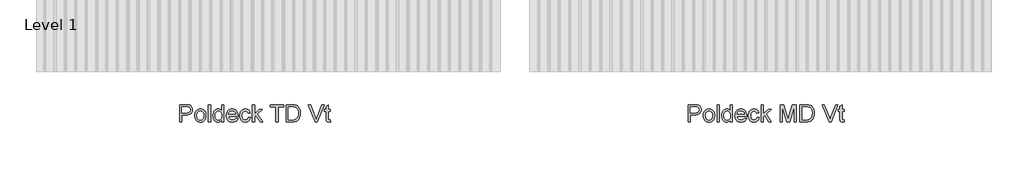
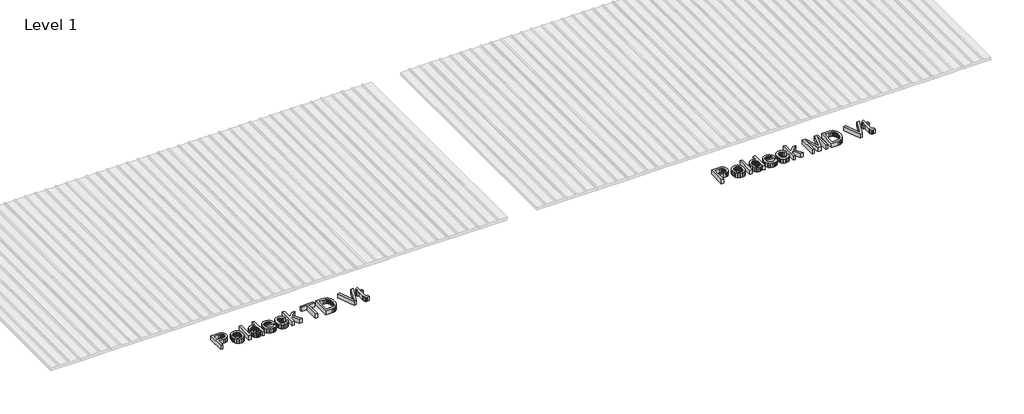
# One storey, part 23 of 27: 2 proxies.
"""IFC4 building model written with IfcOpenShell, lengths in millimetres."""

import ifcopenshell
import ifcopenshell.guid

model = None  # the IFC model being written
_history = None  # IfcOwnerHistory: only IFC2X3 demands one
_inside = {}  # id of a spatial element -> (the spatial element, [elements in it])
_under = {}  # id of a project, library or spatial element -> (it, [spatial elements below it])
_declared = {}  # id of a project -> (the project, [libraries it declares])
_typed = {}  # id of a type object -> (the type object, [elements of that type])
_made_of = {}  # id of a material, layer set ... -> (it, [elements and type objects made of it])


def new_model(schema):
    """Start an empty IFC model of exactly this schema.

    Asked for "IFC4X3", IfcOpenShell would pick the latest addendum, in which some entities
    have other attributes; the version numbers below select the first issue.
    IFC2X3 requires an IfcOwnerHistory on every rooted entity: one is made here for all.
    """
    global model, _history
    if schema == "IFC4X3":
        model = ifcopenshell.file(schema_version=(4, 3, 0, 0))
    else:
        model = ifcopenshell.file(schema=schema)
    _inside.clear()
    _under.clear()
    _declared.clear()
    _typed.clear()
    _made_of.clear()
    _history = None
    if model.schema == "IFC2X3":
        org = make("IfcOrganization", Name="unknown")
        user = make(
            "IfcPersonAndOrganization",
            ThePerson=make("IfcPerson", FamilyName="unknown"),
            TheOrganization=org,
        )
        app = make(
            "IfcApplication",
            ApplicationDeveloper=org,
            Version="unknown",
            ApplicationFullName="unknown",
            ApplicationIdentifier="unknown",
        )
        _history = make(
            "IfcOwnerHistory",
            OwningUser=user,
            OwningApplication=app,
            ChangeAction="ADDED",
            CreationDate=0,
        )
    return model


def make(cls, **values):
    """One entity of the class cls with the attributes given. An attribute that is None is left unset."""
    return model.create_entity(
        cls, **{name: value for name, value in values.items() if value is not None}
    )


def rooted(cls, **values):
    """An entity with a GlobalId (a new one), such as an element, a storey or a relation."""
    return make(cls, GlobalId=ifcopenshell.guid.new(), OwnerHistory=_history, **values)


def si_unit(unit_type, name, prefix=None):
    """IfcSIUnit, for example si_unit("LENGTHUNIT", "METRE", prefix="MILLI")."""
    return make("IfcSIUnit", UnitType=unit_type, Prefix=prefix, Name=name)


def assignment(units):
    """IfcUnitAssignment: the units of a project."""
    return None if units is None else make("IfcUnitAssignment", Units=units)


def point(xyz):
    """IfcCartesianPoint."""
    return None if xyz is None else make("IfcCartesianPoint", Coordinates=xyz)


def direction(xyz):
    """IfcDirection."""
    return None if xyz is None else make("IfcDirection", DirectionRatios=xyz)


def frame(location, z_axis=None, x_axis=None):
    """IfcAxis2Placement3D, a coordinate frame: its origin and axes. An axis left out is left unset."""
    return make(
        "IfcAxis2Placement3D",
        Location=point(location),
        Axis=direction(z_axis),
        RefDirection=direction(x_axis),
    )


def origin():
    """The frame at (0, 0, 0) with its axes left unset."""
    return frame((0.0, 0.0, 0.0))


def origin_with_axes():
    """The frame at (0, 0, 0) with the z axis (0, 0, 1) and the x axis (1, 0, 0) written out."""
    return frame((0.0, 0.0, 0.0), z_axis=(0.0, 0.0, 1.0), x_axis=(1.0, 0.0, 0.0))


def place(relative_to, where):
    """IfcLocalPlacement: puts the frame where relative to a parent placement (None: the world)."""
    return make(
        "IfcLocalPlacement", PlacementRelTo=relative_to, RelativePlacement=where
    )


def context(
    kind, dimensions, precision=None, world=None, true_north=None, identifier=None
):
    """IfcGeometricRepresentationContext, for example the 3D "Model" context."""
    return make(
        "IfcGeometricRepresentationContext",
        ContextIdentifier=identifier,
        ContextType=kind,
        CoordinateSpaceDimension=dimensions,
        Precision=precision,
        WorldCoordinateSystem=world,
        TrueNorth=true_north,
    )


def project(units=None, contexts=None):
    """IfcProject with its units and contexts."""
    return rooted(
        "IfcProject",
        Name="project",
        RepresentationContexts=contexts,
        UnitsInContext=assignment(units),
    )


def spatial(cls, under=None, at=None, **own):
    """A site, building, storey or space (cls), placed at a placement, below another one or the project."""
    s = rooted(cls, ObjectPlacement=at, **own)
    if under is not None:
        _under.setdefault(under.id(), (under, []))[1].append(s)
    return s


def polyline(points):
    """IfcPolyline through the points."""
    return make("IfcPolyline", Points=[point(p) for p in points])


def outline(outer, holes=None, kind="AREA"):
    """IfcArbitraryClosedProfileDef: a profile drawn as a closed curve; with holes, ...WithVoids."""
    if holes is None:
        return make("IfcArbitraryClosedProfileDef", ProfileType=kind, OuterCurve=outer)
    return make(
        "IfcArbitraryProfileDefWithVoids",
        ProfileType=kind,
        OuterCurve=outer,
        InnerCurves=holes,
    )


def extrude(swept, where, along, depth):
    """IfcExtrudedAreaSolid: the profile swept, set in the frame where, extruded along a direction by depth."""
    return make(
        "IfcExtrudedAreaSolid",
        SweptArea=swept,
        Position=where,
        ExtrudedDirection=direction(along),
        Depth=depth,
    )


def shape(context_of_items, identifier, shape_type, items):
    """IfcShapeRepresentation: the items that make up one representation, for example the "Body"."""
    return make(
        "IfcShapeRepresentation",
        ContextOfItems=context_of_items,
        RepresentationIdentifier=identifier,
        RepresentationType=shape_type,
        Items=items,
    )


def made_of(thing, what):
    """Note that an element or type object is made of a material, layer set ...; save() writes the relation."""
    if what is not None:
        _made_of.setdefault(what.id(), (what, []))[1].append(thing)
    return thing


def element(
    cls,
    number,
    at=None,
    inside=None,
    cuts=None,
    type_object=None,
    material=None,
    context=None,
    identifier="Body",
    shape_type=None,
    held_by="IfcProductDefinitionShape",
    body=None,
    shapes=None,
    **own,
):
    """One element of the class cls, such as IfcWall. Its Tag is "e" and its number.

    at: its placement. inside: the storey or other place that contains it. cuts: it is an
    opening in that element (IfcRelVoidsElement). A single representation is given by context,
    identifier, shape_type and body (its items); several are given by shapes. held_by: the class
    of the entity that holds the representations. save() writes the other relations.
    """
    e = rooted(cls, Tag="e%d" % number, ObjectPlacement=at, **own)
    if body is not None:
        shapes = [shape(context, identifier, shape_type, body)]
    if shapes is not None:
        e.Representation = make(held_by, Representations=shapes)
    if inside is not None:
        _inside.setdefault(inside.id(), (inside, []))[1].append(e)
    if cuts is not None:
        rooted(
            "IfcRelVoidsElement", RelatingBuildingElement=cuts, RelatedOpeningElement=e
        )
    if type_object is not None:
        _typed.setdefault(type_object.id(), (type_object, []))[1].append(e)
    return made_of(e, material)


def aggregate(whole, parts):
    """IfcRelAggregates: a whole, such as a stair, and the parts it consists of."""
    return rooted("IfcRelAggregates", RelatingObject=whole, RelatedObjects=parts)


def save(model, path):
    """Write the relations noted so far, then the file.

    IfcRelAggregates (storeys below a building ...), IfcRelContainedInSpatialStructure (elements
    in a storey), IfcRelDefinesByType, IfcRelAssociatesMaterial and IfcRelDeclares: one each for
    every whole, place, type object, material and project.
    """
    for whole, parts in _under.values():
        aggregate(whole, parts)
    for where, things in _inside.values():
        rooted(
            "IfcRelContainedInSpatialStructure",
            RelatedElements=things,
            RelatingStructure=where,
        )
    for kind, things in _typed.values():
        rooted("IfcRelDefinesByType", RelatedObjects=things, RelatingType=kind)
    for what, things in _made_of.values():
        rooted("IfcRelAssociatesMaterial", RelatedObjects=things, RelatingMaterial=what)
    for by, libraries in _declared.values():
        rooted("IfcRelDeclares", RelatingContext=by, RelatedDefinitions=libraries)
    model.write(path)


model = new_model("IFC4")

# Units and contexts
model_context = context("Model", 3, world=origin())
ifc_project = project(units=[si_unit("LENGTHUNIT", "METRE", prefix="MILLI")], contexts=[model_context])

# Site, building, storey
site = spatial("IfcSite", under=ifc_project)
building = spatial("IfcBuilding", under=site)
storey = spatial("IfcBuildingStorey", under=building, Name="Level 1", Elevation=0.0)

# Proxies
placement = place(None, origin())
element("IfcBuildingElementProxy", 1, Name="600mm Arial", ObjectType="600mm Arial", at=placement, inside=storey, context=model_context, shape_type="SweptSolid", body=[
    extrude(outline(polyline([(31127.0846824, -15088.4076888), (31127.0846824, -14497.6384581), (31346.02699, -14497.6384581), (31397.012567, -14499.0447081), (31434.2962208, -14503.2634581), (31473.653192, -14513.7742754), (31506.0510285, -14530.8836504), (31532.1387689, -14555.3668234), (31552.5654516, -14587.999035), (31565.762567, -14626.4906215), (31570.1616054, -14668.5519196), (31567.191353, -14704.8169436), (31558.2805958, -14738.1793234), (31543.4293338, -14768.639059), (31522.637567, -14796.1961504), (31494.0933963, -14819.0386984), (31455.9849227, -14835.3548042), (31408.3121463, -14845.1444677), (31351.075067, -14848.4076888), (31200.9308362, -14848.4076888), (31200.9308362, -15088.4076888), (31127.0846824, -15088.4076888)]), holes=[polyline([(31200.9308362, -14774.561535), (31355.40199, -14774.561535), (31390.918817, -14772.8668234), (31420.8827593, -14767.7826888), (31445.293817, -14759.3091311), (31464.15199, -14747.4461504), (31478.2235045, -14732.5092513), (31488.2745862, -14714.8139388), (31494.3052352, -14694.3602129), (31496.3154516, -14671.1480734), (31491.573865, -14637.9749965), (31477.3491054, -14609.9942273), (31455.4079997, -14588.936535), (31427.5173747, -14576.5326888), (31399.0317977, -14572.7466311), (31353.6712208, -14571.4846119), (31200.9308362, -14571.4846119), (31200.9308362, -14774.561535)])]), origin_with_axes(), (0.0, 0.0, 1.0), 150.0),
    extrude(outline(polyline([(31644.0077593, -14871.4846119), (31648.0011487, -14815.2977129), (31659.981317, -14766.8812465), (31679.9482641, -14726.2352129), (31707.90199, -14693.3596119), (31736.0450189, -14672.3469917), (31767.1087208, -14657.3379773), (31801.0930958, -14648.3325686), (31837.9981439, -14645.3307657), (31878.738829, -14648.9861143), (31915.5762689, -14659.95216), (31948.5104636, -14678.2289028), (31977.5414131, -14703.8163427), (32001.2358242, -14735.8490951), (32018.1604035, -14773.4617754), (32028.3151511, -14816.6543835), (32031.700067, -14865.4269196), (32030.2036727, -14904.9551648), (32025.71449, -14940.030285), (32018.2325189, -14970.6522802), (32007.7577593, -14996.8211504), (31994.4209203, -15019.4248162), (31978.3527112, -15039.3511984), (31959.5531319, -15056.600297), (31938.0221824, -15071.1721119), (31914.598204, -15082.7511383), (31890.1195381, -15091.0218715), (31864.5861848, -15095.9843114), (31837.9981439, -15097.6384581), (31796.6625069, -15093.9966311), (31759.4825189, -15083.0711504), (31726.4581799, -15064.8620157), (31697.58949, -15039.3692273), (31674.1474828, -15007.0254773), (31657.403192, -14968.2634581), (31647.3566174, -14923.0831696), (31644.0077593, -14871.4846119)]), holes=[polyline([(31717.8539131, -14871.3403811), (31719.9903314, -14907.1591912), (31726.3995862, -14938.1733138), (31737.0816775, -14964.3827489), (31752.0366054, -14985.7874965), (31770.2277112, -15002.4145999), (31790.6183362, -15014.2911023), (31813.2084804, -15021.4170037), (31837.9981439, -15023.7923042), (31862.6616054, -15021.4034821), (31885.1616054, -15014.2370157), (31905.4981439, -15002.2929052), (31923.6712208, -14985.5711504), (31938.6261487, -14963.9545638), (31949.30824, -14937.3259581), (31955.7174949, -14905.6853331), (31957.8539131, -14869.0326888), (31955.7039732, -14834.349696), (31949.2541535, -14804.1468715), (31938.504454, -14778.4242153), (31923.4548747, -14757.1817273), (31905.2141896, -14740.5546239), (31884.8911727, -14728.6781215), (31862.4858242, -14721.5522201), (31837.9981439, -14719.1769196), (31813.2084804, -14721.5432056), (31790.6183362, -14728.6420638), (31770.2277112, -14740.4734941), (31752.0366054, -14757.0374965), (31737.0816775, -14778.3791431), (31726.3995862, -14804.5435061), (31719.9903314, -14835.5305855), (31717.8539131, -14871.3403811)])]), origin_with_axes(), (0.0, 0.0, 1.0), 150.0),
    extrude(outline(polyline([(32114.77699, -15088.4076888), (32114.77699, -14497.6384581), (32188.6231439, -14497.6384581), (32188.6231439, -15088.4076888), (32114.77699, -15088.4076888)])), origin_with_axes(), (0.0, 0.0, 1.0), 150.0),
    extrude(outline(polyline([(32567.0846824, -15088.4076888), (32567.0846824, -15018.7442273), (32544.9903314, -15053.2604532), (32518.2265093, -15077.9149004), (32486.793216, -15092.7075686), (32450.6904516, -15097.6384581), (32426.3154516, -15095.8536023), (32402.950067, -15090.499035), (32380.5942977, -15081.5747561), (32359.2481439, -15069.0807657), (32339.5786727, -15053.3911624), (32322.2529516, -15034.8800446), (32307.2709804, -15013.5474124), (32294.6327593, -14989.3932657), (32284.5997064, -14962.8773403), (32277.43324, -14934.4593715), (32271.700067, -14871.9173042), (32276.9825189, -14810.1504773), (32292.8298747, -14754.3692273), (32304.7108843, -14729.5164629), (32319.2241054, -14707.7466311), (32336.3695381, -14689.0597321), (32356.1471824, -14673.4557657), (32377.8584203, -14661.1510782), (32400.8046343, -14652.3620157), (32424.9858242, -14647.0885782), (32450.40199, -14645.3307657), (32486.5317977, -14650.3608138), (32518.4789131, -14665.4509581), (32545.55824, -14688.5819677), (32567.0846824, -14717.7346119), (32567.0846824, -14497.6384581), (32640.9308362, -14497.6384581), (32640.9308362, -15088.4076888), (32567.0846824, -15088.4076888)]), holes=[polyline([(32345.5462208, -14871.6288427), (32347.6285525, -14907.4386383), (32353.8755477, -14938.4257177), (32364.2872064, -14964.5900806), (32378.8635285, -14985.9317273), (32396.2703795, -15002.4957297), (32415.1736247, -15014.32716), (32435.5732641, -15021.4260181), (32457.4692977, -15023.7923042), (32479.4689973, -15021.5341912), (32499.746942, -15014.7598523), (32518.3031319, -15003.4692874), (32535.137567, -14987.6624965), (32549.1144299, -14967.2132778), (32559.0979035, -14941.9954292), (32565.0879876, -14912.0089508), (32567.0846824, -14877.2538427), (32565.0519299, -14839.1498763), (32558.9536727, -14806.4725927), (32548.7899107, -14779.2219917), (32534.5606439, -14757.3980734), (32517.3566174, -14740.6763186), (32498.2685766, -14728.7322081), (32477.2965213, -14721.5657417), (32454.4404516, -14719.1769196), (32432.1117256, -14721.4710903), (32411.7120862, -14728.3536023), (32393.2415333, -14739.8244556), (32376.700067, -14755.8836504), (32363.0702593, -14776.8827489), (32353.3346824, -14803.1733138), (32347.4933362, -14834.7553451), (32345.5462208, -14871.6288427)])]), origin_with_axes(), (0.0, 0.0, 1.0), 150.0),
    extrude(outline(polyline([(33055.450067, -14959.1769196), (33127.8539131, -14968.4076888), (33116.7526511, -14997.4070879), (33101.7661727, -15022.9629773), (33082.894478, -15045.0753571), (33060.137567, -15063.7442273), (33033.7298146, -15078.5729532), (33003.9055958, -15089.1649004), (32970.6649107, -15095.5200686), (32934.0077593, -15097.6384581), (32888.1874468, -15093.9831095), (32847.3611247, -15083.0170638), (32811.5287929, -15064.740321), (32780.6904516, -15039.1528811), (32755.8917737, -15006.9668835), (32738.1784324, -14968.8944677), (32727.5504275, -14924.9356335), (32724.0077593, -14875.0903811), (32727.5864852, -14823.5549244), (32738.3226631, -14778.1312465), (32756.2162929, -14738.8193475), (32781.2673747, -14705.6192273), (32812.0245862, -14679.2430254), (32847.0366054, -14660.4028811), (32886.3034324, -14649.0987946), (32929.825067, -14645.3307657), (32971.9449588, -14649.0897802), (33010.0354035, -14660.3668234), (33044.0964011, -14679.1618956), (33074.1279516, -14705.4749965), (33098.6426751, -14738.6030013), (33116.153192, -14777.842785), (33126.6595021, -14823.1943475), (33130.1616054, -14874.6576888), (33129.7289131, -14894.561535), (32797.8539131, -14894.561535), (32802.1312569, -14924.029684), (32810.636365, -14949.8379773), (32823.3692376, -14971.9864148), (32840.3298747, -14990.4749965), (32860.5807761, -15005.0513186), (32883.184442, -15015.4629773), (32908.1408723, -15021.7099725), (32935.450067, -15023.7923042), (32974.7529516, -15019.9341311), (33007.8539131, -15008.3596119), (33034.7529516, -14988.3475927), (33055.450067, -14959.1769196)]), holes=[polyline([(32797.8539131, -14820.7153811), (33056.3154516, -14820.7153811), (33046.3274708, -14781.7009581), (33037.7367256, -14766.35841), (33026.7481439, -14753.7923042), (33006.6099227, -14738.6480734), (32983.6952593, -14727.8307657), (32958.0041535, -14721.3403811), (32929.5366054, -14719.1769196), (32903.5705598, -14720.9031816), (32879.7589612, -14726.0819677), (32858.1018098, -14734.7132778), (32838.5991054, -14746.7971119), (32822.2334203, -14761.7745758), (32809.9873266, -14779.0867754), (32801.8608242, -14798.7337105), (32797.8539131, -14820.7153811)])]), origin_with_axes(), (0.0, 0.0, 1.0), 150.0),
    extrude(outline(polyline([(33480.9308362, -14931.4846119), (33554.77699, -14940.7153811), (33546.7451391, -14975.5606335), (33534.1880477, -15006.3944677), (33517.105716, -15033.2168835), (33495.4981439, -15056.0278811), (33470.2757881, -15074.2325085), (33442.3491054, -15087.2358138), (33411.7180958, -15095.037797), (33378.3827593, -15097.6384581), (33336.9659924, -15094.0101528), (33299.8310766, -15083.1252369), (33266.9780117, -15064.9837105), (33238.4067977, -15039.5855734), (33215.2802953, -15007.4085903), (33198.761365, -14968.9305254), (33188.8500069, -14924.1513787), (33185.5462208, -14873.0711504), (33191.1892497, -14807.3560061), (33198.2430357, -14777.7841912), (33208.1183362, -14750.4028811), (33220.8827593, -14725.7619556), (33236.6039131, -14704.4112946), (33255.2817977, -14686.350898), (33276.9164131, -14671.5807657), (33300.5296944, -14660.0963907), (33325.1435766, -14651.8932657), (33350.7580598, -14646.9713907), (33377.3731439, -14645.3307657), (33410.1360646, -14647.5843715), (33439.7709804, -14654.3451888), (33466.2778915, -14665.6132177), (33489.6567977, -14681.3884581), (33509.5110646, -14701.3103331), (33525.4440574, -14725.0182657), (33537.4557761, -14752.5122561), (33545.5462208, -14783.7923042), (33471.700067, -14793.0230734), (33458.3046343, -14760.8055254), (33437.4452593, -14737.7105734), (33410.2757881, -14723.8103331), (33377.950067, -14719.1769196), (33352.8584203, -14721.4575686), (33330.2277112, -14728.2995157), (33310.0579396, -14739.7027609), (33292.3491054, -14755.6673042), (33277.9305357, -14776.5627369), (33267.6315574, -14802.7586504), (33261.4521703, -14834.2550446), (33259.3923747, -14871.0519196), (33261.4070982, -14908.4031816), (33267.4512689, -14940.26466), (33277.5248867, -14966.6363547), (33291.6279516, -14987.5182657), (33308.9852232, -15003.3881576), (33328.8214612, -15014.7237946), (33351.1366655, -15021.5251768), (33375.9308362, -15023.7923042), (33414.1700189, -15018.1312465), (33430.706978, -15011.0549244), (33445.5221824, -15001.1480734), (33458.2009684, -14988.3025206), (33468.3286727, -14972.4100927), (33475.9052953, -14953.4707898), (33480.9308362, -14931.4846119)])), origin_with_axes(), (0.0, 0.0, 1.0), 150.0),
    extrude(outline(polyline([(33619.3923747, -15088.4076888), (33619.3923747, -14497.6384581), (33693.2385285, -14497.6384581), (33693.2385285, -14815.0903811), (33858.8154516, -14654.561535), (33960.9308362, -14654.561535), (33793.3346824, -14817.1096119), (33970.1616054, -15088.4076888), (33883.9116054, -15088.4076888), (33740.40199, -14868.4557657), (33693.2385285, -14914.1769196), (33693.2385285, -15088.4076888), (33619.3923747, -15088.4076888)])), origin_with_axes(), (0.0, 0.0, 1.0), 150.0),
    extrude(outline(polyline([(34422.4692977, -15088.4076888), (34422.4692977, -14571.4846119), (34228.6231439, -14571.4846119), (34228.6231439, -14497.6384581), (34690.1616054, -14497.6384581), (34690.1616054, -14571.4846119), (34496.3154516, -14571.4846119), (34496.3154516, -15088.4076888), (34422.4692977, -15088.4076888)])), origin_with_axes(), (0.0, 0.0, 1.0), 150.0),
    extrude(outline(polyline([(34773.2385285, -15088.4076888), (34773.2385285, -14497.6384581), (34977.0366054, -14497.6384581), (35037.9380477, -14499.7658619), (35082.4692977, -14506.1480734), (35129.5606439, -14522.5543234), (35169.2962208, -14548.4076888), (35191.1922545, -14569.5374965), (35210.1495862, -14593.4076888), (35226.168216, -14620.0182657), (35239.2481439, -14649.3692273), (35249.4073987, -14681.1901407), (35256.6640093, -14715.2105734), (35262.4692977, -14789.8499965), (35258.5390093, -14853.2574484), (35246.7481439, -14909.0567273), (35228.7914131, -14956.5627369), (35206.3635285, -14995.0903811), (35180.5462208, -15025.5050446), (35152.4212208, -15048.6721119), (35120.1315574, -15065.8536023), (35081.8202593, -15078.311535), (35037.4152112, -15085.8836504), (34986.8442977, -15088.4076888), (34773.2385285, -15088.4076888)]), holes=[polyline([(34847.0846824, -15014.561535), (34977.7577593, -15014.561535), (35031.80824, -15011.8932657), (35072.8058362, -15003.8884581), (35103.7433362, -14991.0158619), (35127.6135285, -14973.7442273), (35153.2685766, -14941.7790831), (35172.5414131, -14900.4028811), (35184.6027112, -14849.4353331), (35188.6231439, -14788.6961504), (35186.6534924, -14745.8235542), (35180.7445381, -14708.2153811), (35170.8962809, -14675.8716311), (35157.1087208, -14648.7923042), (35140.4996463, -14626.3644196), (35122.1868458, -14607.9749965), (35102.1703194, -14593.624035), (35080.450067, -14583.311535), (35037.9741054, -14574.4413427), (34975.7385285, -14571.4846119), (34847.0846824, -14571.4846119), (34847.0846824, -15014.561535)])]), origin_with_axes(), (0.0, 0.0, 1.0), 150.0),
    extrude(outline(polyline([(35769.2962208, -15088.4076888), (35534.200067, -14497.6384581), (35613.2385285, -14497.6384581), (35770.5942977, -14923.2634581), (35802.4692977, -15019.1769196), (35833.9116054, -14923.2634581), (35991.700067, -14497.6384581), (36070.7385285, -14497.6384581), (35845.5942977, -15088.4076888), (35769.2962208, -15088.4076888)])), origin_with_axes(), (0.0, 0.0, 1.0), 150.0),
    extrude(outline(polyline([(36287.0846824, -15026.8211504), (36296.3154516, -15090.5711504), (36241.075067, -15097.6384581), (36205.6303554, -15094.5735542), (36179.200067, -15085.3788427), (36160.5221824, -15071.2081696), (36148.3346824, -15053.2153811), (36141.6279516, -15022.3139388), (36139.3923747, -14969.4173042), (36139.3923747, -14728.4076888), (36084.0077593, -14728.4076888), (36084.0077593, -14654.561535), (36139.3923747, -14654.561535), (36139.3923747, -14549.1288427), (36213.2385285, -14505.7153811), (36213.2385285, -14654.561535), (36287.0846824, -14654.561535), (36287.0846824, -14728.4076888), (36213.2385285, -14728.4076888), (36213.2385285, -14967.2538427), (36217.1327593, -15005.3307657), (36229.7529516, -15018.8163427), (36240.4079997, -15022.5483138), (36254.9212208, -15023.7923042), (36287.0846824, -15026.8211504)])), origin_with_axes(), (0.0, 0.0, 1.0), 150.0),
])
element("IfcBuildingElementProxy", 2, Name="600mm Arial", ObjectType="600mm Arial", at=placement, inside=storey, context=model_context, shape_type="SweptSolid", body=[
    extrude(outline(polyline([(48527.0846824, -15088.4076888), (48527.0846824, -14497.6384581), (48746.02699, -14497.6384581), (48797.012567, -14499.0447081), (48834.2962208, -14503.2634581), (48873.653192, -14513.7742754), (48906.0510285, -14530.8836504), (48932.1387689, -14555.3668234), (48952.5654516, -14587.999035), (48965.762567, -14626.4906215), (48970.1616054, -14668.5519196), (48967.191353, -14704.8169436), (48958.2805958, -14738.1793234), (48943.4293338, -14768.639059), (48922.637567, -14796.1961504), (48894.0933963, -14819.0386984), (48855.9849227, -14835.3548042), (48808.3121463, -14845.1444677), (48751.075067, -14848.4076888), (48600.9308362, -14848.4076888), (48600.9308362, -15088.4076888), (48527.0846824, -15088.4076888)]), holes=[polyline([(48600.9308362, -14774.561535), (48755.40199, -14774.561535), (48790.918817, -14772.8668234), (48820.8827593, -14767.7826888), (48845.293817, -14759.3091311), (48864.15199, -14747.4461504), (48878.2235045, -14732.5092513), (48888.2745862, -14714.8139388), (48894.3052352, -14694.3602129), (48896.3154516, -14671.1480734), (48891.573865, -14637.9749965), (48877.3491054, -14609.9942273), (48855.4079997, -14588.936535), (48827.5173747, -14576.5326888), (48799.0317977, -14572.7466311), (48753.6712208, -14571.4846119), (48600.9308362, -14571.4846119), (48600.9308362, -14774.561535)])]), origin_with_axes(), (0.0, 0.0, 1.0), 150.0),
    extrude(outline(polyline([(49044.0077593, -14871.4846119), (49048.0011487, -14815.2977129), (49059.981317, -14766.8812465), (49079.9482641, -14726.2352129), (49107.90199, -14693.3596119), (49136.0450189, -14672.3469917), (49167.1087208, -14657.3379773), (49201.0930958, -14648.3325686), (49237.9981439, -14645.3307657), (49278.738829, -14648.9861143), (49315.5762689, -14659.95216), (49348.5104636, -14678.2289028), (49377.5414131, -14703.8163427), (49401.2358242, -14735.8490951), (49418.1604035, -14773.4617754), (49428.3151511, -14816.6543835), (49431.700067, -14865.4269196), (49430.2036727, -14904.9551648), (49425.71449, -14940.030285), (49418.2325189, -14970.6522802), (49407.7577593, -14996.8211504), (49394.4209203, -15019.4248162), (49378.3527112, -15039.3511984), (49359.5531319, -15056.600297), (49338.0221824, -15071.1721119), (49314.598204, -15082.7511383), (49290.1195381, -15091.0218715), (49264.5861848, -15095.9843114), (49237.9981439, -15097.6384581), (49196.6625069, -15093.9966311), (49159.4825189, -15083.0711504), (49126.4581799, -15064.8620157), (49097.58949, -15039.3692273), (49074.1474828, -15007.0254773), (49057.403192, -14968.2634581), (49047.3566174, -14923.0831696), (49044.0077593, -14871.4846119)]), holes=[polyline([(49117.8539131, -14871.3403811), (49119.9903314, -14907.1591912), (49126.3995862, -14938.1733138), (49137.0816775, -14964.3827489), (49152.0366054, -14985.7874965), (49170.2277112, -15002.4145999), (49190.6183362, -15014.2911023), (49213.2084804, -15021.4170037), (49237.9981439, -15023.7923042), (49262.6616054, -15021.4034821), (49285.1616054, -15014.2370157), (49305.4981439, -15002.2929052), (49323.6712208, -14985.5711504), (49338.6261487, -14963.9545638), (49349.30824, -14937.3259581), (49355.7174949, -14905.6853331), (49357.8539131, -14869.0326888), (49355.7039732, -14834.349696), (49349.2541535, -14804.1468715), (49338.504454, -14778.4242153), (49323.4548747, -14757.1817273), (49305.2141896, -14740.5546239), (49284.8911727, -14728.6781215), (49262.4858242, -14721.5522201), (49237.9981439, -14719.1769196), (49213.2084804, -14721.5432056), (49190.6183362, -14728.6420638), (49170.2277112, -14740.4734941), (49152.0366054, -14757.0374965), (49137.0816775, -14778.3791431), (49126.3995862, -14804.5435061), (49119.9903314, -14835.5305855), (49117.8539131, -14871.3403811)])]), origin_with_axes(), (0.0, 0.0, 1.0), 150.0),
    extrude(outline(polyline([(49514.77699, -15088.4076888), (49514.77699, -14497.6384581), (49588.6231439, -14497.6384581), (49588.6231439, -15088.4076888), (49514.77699, -15088.4076888)])), origin_with_axes(), (0.0, 0.0, 1.0), 150.0),
    extrude(outline(polyline([(49967.0846824, -15088.4076888), (49967.0846824, -15018.7442273), (49944.9903314, -15053.2604532), (49918.2265093, -15077.9149004), (49886.793216, -15092.7075686), (49850.6904516, -15097.6384581), (49826.3154516, -15095.8536023), (49802.950067, -15090.499035), (49780.5942977, -15081.5747561), (49759.2481439, -15069.0807657), (49739.5786727, -15053.3911624), (49722.2529516, -15034.8800446), (49707.2709804, -15013.5474124), (49694.6327593, -14989.3932657), (49684.5997064, -14962.8773403), (49677.43324, -14934.4593715), (49671.700067, -14871.9173042), (49676.9825189, -14810.1504773), (49692.8298747, -14754.3692273), (49704.7108843, -14729.5164629), (49719.2241054, -14707.7466311), (49736.3695381, -14689.0597321), (49756.1471824, -14673.4557657), (49777.8584203, -14661.1510782), (49800.8046343, -14652.3620157), (49824.9858242, -14647.0885782), (49850.40199, -14645.3307657), (49886.5317977, -14650.3608138), (49918.4789131, -14665.4509581), (49945.55824, -14688.5819677), (49967.0846824, -14717.7346119), (49967.0846824, -14497.6384581), (50040.9308362, -14497.6384581), (50040.9308362, -15088.4076888), (49967.0846824, -15088.4076888)]), holes=[polyline([(49745.5462208, -14871.6288427), (49747.6285525, -14907.4386383), (49753.8755477, -14938.4257177), (49764.2872064, -14964.5900806), (49778.8635285, -14985.9317273), (49796.2703795, -15002.4957297), (49815.1736247, -15014.32716), (49835.5732641, -15021.4260181), (49857.4692977, -15023.7923042), (49879.4689973, -15021.5341912), (49899.746942, -15014.7598523), (49918.3031319, -15003.4692874), (49935.137567, -14987.6624965), (49949.1144299, -14967.2132778), (49959.0979035, -14941.9954292), (49965.0879876, -14912.0089508), (49967.0846824, -14877.2538427), (49965.0519299, -14839.1498763), (49958.9536727, -14806.4725927), (49948.7899107, -14779.2219917), (49934.5606439, -14757.3980734), (49917.3566174, -14740.6763186), (49898.2685766, -14728.7322081), (49877.2965213, -14721.5657417), (49854.4404516, -14719.1769196), (49832.1117256, -14721.4710903), (49811.7120862, -14728.3536023), (49793.2415333, -14739.8244556), (49776.700067, -14755.8836504), (49763.0702593, -14776.8827489), (49753.3346824, -14803.1733138), (49747.4933362, -14834.7553451), (49745.5462208, -14871.6288427)])]), origin_with_axes(), (0.0, 0.0, 1.0), 150.0),
    extrude(outline(polyline([(50455.450067, -14959.1769196), (50527.8539131, -14968.4076888), (50516.7526511, -14997.4070879), (50501.7661727, -15022.9629773), (50482.894478, -15045.0753571), (50460.137567, -15063.7442273), (50433.7298146, -15078.5729532), (50403.9055958, -15089.1649004), (50370.6649107, -15095.5200686), (50334.0077593, -15097.6384581), (50288.1874468, -15093.9831095), (50247.3611247, -15083.0170638), (50211.5287929, -15064.740321), (50180.6904516, -15039.1528811), (50155.8917737, -15006.9668835), (50138.1784324, -14968.8944677), (50127.5504275, -14924.9356335), (50124.0077593, -14875.0903811), (50127.5864852, -14823.5549244), (50138.3226631, -14778.1312465), (50156.2162929, -14738.8193475), (50181.2673747, -14705.6192273), (50212.0245862, -14679.2430254), (50247.0366054, -14660.4028811), (50286.3034324, -14649.0987946), (50329.825067, -14645.3307657), (50371.9449588, -14649.0897802), (50410.0354035, -14660.3668234), (50444.0964011, -14679.1618956), (50474.1279516, -14705.4749965), (50498.6426751, -14738.6030013), (50516.153192, -14777.842785), (50526.6595021, -14823.1943475), (50530.1616054, -14874.6576888), (50529.7289131, -14894.561535), (50197.8539131, -14894.561535), (50202.1312569, -14924.029684), (50210.636365, -14949.8379773), (50223.3692376, -14971.9864148), (50240.3298747, -14990.4749965), (50260.5807761, -15005.0513186), (50283.184442, -15015.4629773), (50308.1408723, -15021.7099725), (50335.450067, -15023.7923042), (50374.7529516, -15019.9341311), (50407.8539131, -15008.3596119), (50434.7529516, -14988.3475927), (50455.450067, -14959.1769196)]), holes=[polyline([(50197.8539131, -14820.7153811), (50456.3154516, -14820.7153811), (50446.3274708, -14781.7009581), (50437.7367256, -14766.35841), (50426.7481439, -14753.7923042), (50406.6099227, -14738.6480734), (50383.6952593, -14727.8307657), (50358.0041535, -14721.3403811), (50329.5366054, -14719.1769196), (50303.5705598, -14720.9031816), (50279.7589612, -14726.0819677), (50258.1018098, -14734.7132778), (50238.5991054, -14746.7971119), (50222.2334203, -14761.7745758), (50209.9873266, -14779.0867754), (50201.8608242, -14798.7337105), (50197.8539131, -14820.7153811)])]), origin_with_axes(), (0.0, 0.0, 1.0), 150.0),
    extrude(outline(polyline([(50880.9308362, -14931.4846119), (50954.77699, -14940.7153811), (50946.7451391, -14975.5606335), (50934.1880477, -15006.3944677), (50917.105716, -15033.2168835), (50895.4981439, -15056.0278811), (50870.2757881, -15074.2325085), (50842.3491054, -15087.2358138), (50811.7180958, -15095.037797), (50778.3827593, -15097.6384581), (50736.9659924, -15094.0101528), (50699.8310766, -15083.1252369), (50666.9780117, -15064.9837105), (50638.4067977, -15039.5855734), (50615.2802953, -15007.4085903), (50598.761365, -14968.9305254), (50588.8500069, -14924.1513787), (50585.5462208, -14873.0711504), (50591.1892497, -14807.3560061), (50598.2430357, -14777.7841912), (50608.1183362, -14750.4028811), (50620.8827593, -14725.7619556), (50636.6039131, -14704.4112946), (50655.2817977, -14686.350898), (50676.9164131, -14671.5807657), (50700.5296944, -14660.0963907), (50725.1435766, -14651.8932657), (50750.7580598, -14646.9713907), (50777.3731439, -14645.3307657), (50810.1360646, -14647.5843715), (50839.7709804, -14654.3451888), (50866.2778915, -14665.6132177), (50889.6567977, -14681.3884581), (50909.5110646, -14701.3103331), (50925.4440574, -14725.0182657), (50937.4557761, -14752.5122561), (50945.5462208, -14783.7923042), (50871.700067, -14793.0230734), (50858.3046343, -14760.8055254), (50837.4452593, -14737.7105734), (50810.2757881, -14723.8103331), (50777.950067, -14719.1769196), (50752.8584203, -14721.4575686), (50730.2277112, -14728.2995157), (50710.0579396, -14739.7027609), (50692.3491054, -14755.6673042), (50677.9305357, -14776.5627369), (50667.6315574, -14802.7586504), (50661.4521703, -14834.2550446), (50659.3923747, -14871.0519196), (50661.4070982, -14908.4031816), (50667.4512689, -14940.26466), (50677.5248867, -14966.6363547), (50691.6279516, -14987.5182657), (50708.9852232, -15003.3881576), (50728.8214612, -15014.7237946), (50751.1366655, -15021.5251768), (50775.9308362, -15023.7923042), (50814.1700189, -15018.1312465), (50830.706978, -15011.0549244), (50845.5221824, -15001.1480734), (50858.2009684, -14988.3025206), (50868.3286727, -14972.4100927), (50875.9052953, -14953.4707898), (50880.9308362, -14931.4846119)])), origin_with_axes(), (0.0, 0.0, 1.0), 150.0),
    extrude(outline(polyline([(51019.3923747, -15088.4076888), (51019.3923747, -14497.6384581), (51093.2385285, -14497.6384581), (51093.2385285, -14815.0903811), (51258.8154516, -14654.561535), (51360.9308362, -14654.561535), (51193.3346824, -14817.1096119), (51370.1616054, -15088.4076888), (51283.9116054, -15088.4076888), (51140.40199, -14868.4557657), (51093.2385285, -14914.1769196), (51093.2385285, -15088.4076888), (51019.3923747, -15088.4076888)])), origin_with_axes(), (0.0, 0.0, 1.0), 150.0),
    extrude(outline(polyline([(51674.77699, -15088.4076888), (51674.77699, -14497.6384581), (51801.8442977, -14497.6384581), (51922.7096824, -14914.0326888), (51947.0846824, -15001.0038427), (51973.4789131, -14906.8211504), (52092.325067, -14497.6384581), (52219.3923747, -14497.6384581), (52219.3923747, -15088.4076888), (52145.5462208, -15088.4076888), (52145.5462208, -14571.4846119), (51997.1327593, -15088.4076888), (51897.0366054, -15088.4076888), (51748.6231439, -14571.4846119), (51748.6231439, -15088.4076888), (51674.77699, -15088.4076888)])), origin_with_axes(), (0.0, 0.0, 1.0), 150.0),
    extrude(outline(polyline([(52348.6231439, -15088.4076888), (52348.6231439, -14497.6384581), (52552.4212208, -14497.6384581), (52613.3226631, -14499.7658619), (52657.8539131, -14506.1480734), (52704.9452593, -14522.5543234), (52744.6808362, -14548.4076888), (52766.5768699, -14569.5374965), (52785.5342016, -14593.4076888), (52801.5528314, -14620.0182657), (52814.6327593, -14649.3692273), (52824.7920141, -14681.1901407), (52832.0486247, -14715.2105734), (52837.8539131, -14789.8499965), (52833.9236247, -14853.2574484), (52822.1327593, -14909.0567273), (52804.1760285, -14956.5627369), (52781.7481439, -14995.0903811), (52755.9308362, -15025.5050446), (52727.8058362, -15048.6721119), (52695.5161727, -15065.8536023), (52657.2048747, -15078.311535), (52612.7998266, -15085.8836504), (52562.2289131, -15088.4076888), (52348.6231439, -15088.4076888)]), holes=[polyline([(52422.4692977, -15014.561535), (52553.1423747, -15014.561535), (52607.1928554, -15011.8932657), (52648.1904516, -15003.8884581), (52679.1279516, -14991.0158619), (52702.9981439, -14973.7442273), (52728.653192, -14941.7790831), (52747.9260285, -14900.4028811), (52759.9873266, -14849.4353331), (52764.0077593, -14788.6961504), (52762.0381078, -14745.8235542), (52756.1291535, -14708.2153811), (52746.2808963, -14675.8716311), (52732.4933362, -14648.7923042), (52715.8842617, -14626.3644196), (52697.5714612, -14607.9749965), (52677.5549348, -14593.624035), (52655.8346824, -14583.311535), (52613.3587208, -14574.4413427), (52551.1231439, -14571.4846119), (52422.4692977, -14571.4846119), (52422.4692977, -15014.561535)])]), origin_with_axes(), (0.0, 0.0, 1.0), 150.0),
    extrude(outline(polyline([(53344.6808362, -15088.4076888), (53109.5846824, -14497.6384581), (53188.6231439, -14497.6384581), (53345.9789131, -14923.2634581), (53377.8539131, -15019.1769196), (53409.2962208, -14923.2634581), (53567.0846824, -14497.6384581), (53646.1231439, -14497.6384581), (53420.9789131, -15088.4076888), (53344.6808362, -15088.4076888)])), origin_with_axes(), (0.0, 0.0, 1.0), 150.0),
    extrude(outline(polyline([(53862.4692977, -15026.8211504), (53871.700067, -15090.5711504), (53816.4596824, -15097.6384581), (53781.0149708, -15094.5735542), (53754.5846824, -15085.3788427), (53735.9067977, -15071.2081696), (53723.7192977, -15053.2153811), (53717.012567, -15022.3139388), (53714.77699, -14969.4173042), (53714.77699, -14728.4076888), (53659.3923747, -14728.4076888), (53659.3923747, -14654.561535), (53714.77699, -14654.561535), (53714.77699, -14549.1288427), (53788.6231439, -14505.7153811), (53788.6231439, -14654.561535), (53862.4692977, -14654.561535), (53862.4692977, -14728.4076888), (53788.6231439, -14728.4076888), (53788.6231439, -14967.2538427), (53792.5173747, -15005.3307657), (53805.137567, -15018.8163427), (53815.792615, -15022.5483138), (53830.3058362, -15023.7923042), (53862.4692977, -15026.8211504)])), origin_with_axes(), (0.0, 0.0, 1.0), 150.0),
])

save(model, "model.ifc")
